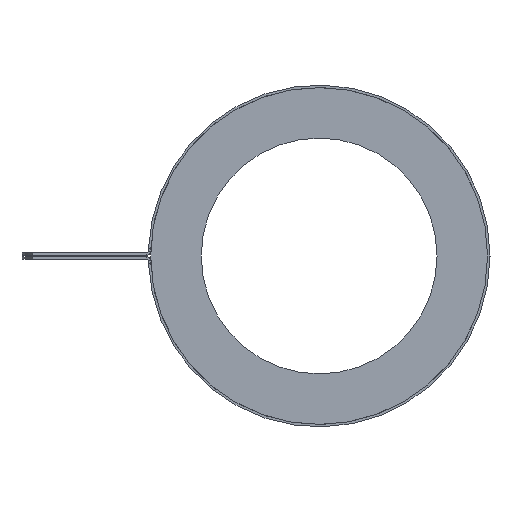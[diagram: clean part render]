
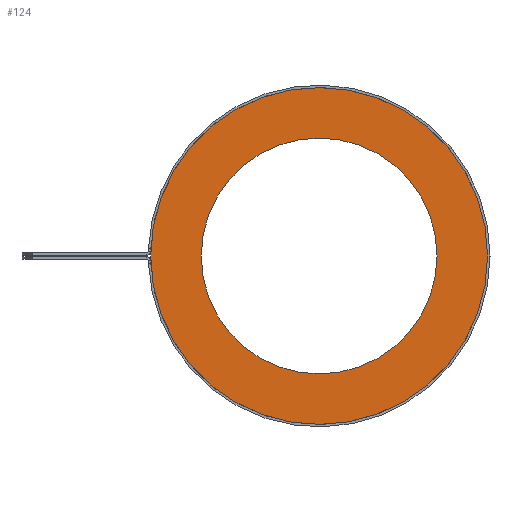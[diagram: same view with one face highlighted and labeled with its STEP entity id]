
A CAD part, left-side view. The second image highlights one B-rep face of the part: STEP entity #124.
In plain terms, the highlighted planar face has unit normal (-1, 0, 0).
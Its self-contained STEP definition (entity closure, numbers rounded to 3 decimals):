
#124 = ADVANCED_FACE ( 'NONE', ( #1030, #1038 ), #175, .F. ) ;
#145 = ORIENTED_EDGE ( 'NONE', *, *, #216, .T. ) ;
#146 = ORIENTED_EDGE ( 'NONE', *, *, #215, .F. ) ;
#151 = ORIENTED_EDGE ( 'NONE', *, *, #210, .F. ) ;
#152 = ORIENTED_EDGE ( 'NONE', *, *, #209, .T. ) ;
#172 = CARTESIAN_POINT ( 'NONE',  ( -190.5, 0., 0. ) ) ;
#175 = PLANE ( 'NONE',  #843 ) ;
#177 = DIRECTION ( 'NONE',  ( 1., 0., 0. ) ) ;
#178 = DIRECTION ( 'NONE',  ( 0., 0., -1. ) ) ;
#209 = EDGE_CURVE ( 'NONE', #489, #467, #1068, .T. ) ;
#210 = EDGE_CURVE ( 'NONE', #483, #460, #1066, .T. ) ;
#215 = EDGE_CURVE ( 'NONE', #460, #483, #305, .T. ) ;
#216 = EDGE_CURVE ( 'NONE', #467, #489, #304, .T. ) ;
#304 = CIRCLE ( 'NONE', #896, 22.225 ) ;
#305 = CIRCLE ( 'NONE', #897, 31.75 ) ;
#460 = VERTEX_POINT ( 'NONE', #1257 ) ;
#467 = VERTEX_POINT ( 'NONE', #1267 ) ;
#483 = VERTEX_POINT ( 'NONE', #1283 ) ;
#489 = VERTEX_POINT ( 'NONE', #1288 ) ;
#510 = EDGE_LOOP ( 'NONE', ( #146, #151 ) ) ;
#519 = EDGE_LOOP ( 'NONE', ( #152, #145 ) ) ;
#843 = AXIS2_PLACEMENT_3D ( 'NONE', #172, #177, #178 ) ;
#896 = AXIS2_PLACEMENT_3D ( 'NONE', #1098, #1099, #1100 ) ;
#897 = AXIS2_PLACEMENT_3D ( 'NONE', #1093, #1094, #1095 ) ;
#901 = AXIS2_PLACEMENT_3D ( 'NONE', #1078, #1079, #1080 ) ;
#902 = AXIS2_PLACEMENT_3D ( 'NONE', #1075, #1076, #1077 ) ;
#1030 = FACE_OUTER_BOUND ( 'NONE', #510, .T. ) ;
#1038 = FACE_BOUND ( 'NONE', #519, .T. ) ;
#1066 = CIRCLE ( 'NONE', #901, 31.75 ) ;
#1068 = CIRCLE ( 'NONE', #902, 22.225 ) ;
#1075 = CARTESIAN_POINT ( 'NONE',  ( -190.5, 0., 0. ) ) ;
#1076 = DIRECTION ( 'NONE',  ( 1., 0., 0. ) ) ;
#1077 = DIRECTION ( 'NONE',  ( 0., 0., -1. ) ) ;
#1078 = CARTESIAN_POINT ( 'NONE',  ( -190.5, 0., 0. ) ) ;
#1079 = DIRECTION ( 'NONE',  ( 1., 0., 0. ) ) ;
#1080 = DIRECTION ( 'NONE',  ( 0., 0., -1. ) ) ;
#1093 = CARTESIAN_POINT ( 'NONE',  ( -190.5, 0., 0. ) ) ;
#1094 = DIRECTION ( 'NONE',  ( 1., 0., 0. ) ) ;
#1095 = DIRECTION ( 'NONE',  ( 0., 0., -1. ) ) ;
#1098 = CARTESIAN_POINT ( 'NONE',  ( -190.5, 0., 0. ) ) ;
#1099 = DIRECTION ( 'NONE',  ( 1., 0., 0. ) ) ;
#1100 = DIRECTION ( 'NONE',  ( 0., 0., -1. ) ) ;
#1257 = CARTESIAN_POINT ( 'NONE',  ( -190.5, 0., 31.75 ) ) ;
#1267 = CARTESIAN_POINT ( 'NONE',  ( -190.5, 0., -22.225 ) ) ;
#1283 = CARTESIAN_POINT ( 'NONE',  ( -190.5, 0., -31.75 ) ) ;
#1288 = CARTESIAN_POINT ( 'NONE',  ( -190.5, 0., 22.225 ) ) ;
